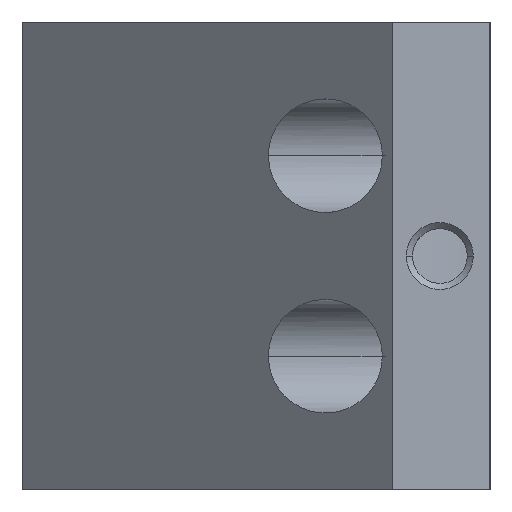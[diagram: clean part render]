
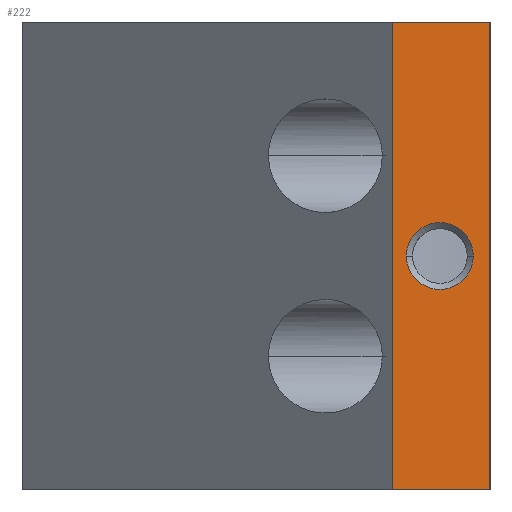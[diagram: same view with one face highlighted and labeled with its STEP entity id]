
A CAD part, left-side view. The second image highlights one B-rep face of the part: STEP entity #222.
In plain terms, the highlighted planar face has unit normal (-1, 0, 0).
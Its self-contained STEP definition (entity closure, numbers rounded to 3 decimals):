
#222=ADVANCED_FACE('',(#412,#317),#1001,.T.);
#317=FACE_OUTER_BOUND('',#444,.F.);
#412=FACE_BOUND('',#443,.F.);
#443=EDGE_LOOP('',(#569,#570));
#444=EDGE_LOOP('',(#571,#572,#573,#574));
#569=ORIENTED_EDGE('',*,*,#1878,.T.);
#570=ORIENTED_EDGE('',*,*,#1879,.T.);
#571=ORIENTED_EDGE('',*,*,#1883,.T.);
#572=ORIENTED_EDGE('',*,*,#1881,.F.);
#573=ORIENTED_EDGE('',*,*,#1882,.F.);
#574=ORIENTED_EDGE('',*,*,#1880,.T.);
#1001=PLANE('',#2350);
#1630=LINE('',#3224,#1728);
#1631=LINE('',#3225,#1729);
#1632=LINE('',#3226,#1730);
#1633=LINE('',#3227,#1731);
#1728=VECTOR('',#2501,42.);
#1729=VECTOR('',#2502,42.);
#1730=VECTOR('',#2503,8.776);
#1731=VECTOR('',#2504,8.776);
#1878=EDGE_CURVE('',#2233,#2232,#2084,.T.);
#1879=EDGE_CURVE('',#2232,#2233,#2085,.T.);
#1880=EDGE_CURVE('',#2231,#2230,#1630,.T.);
#1881=EDGE_CURVE('',#2229,#2228,#1631,.T.);
#1882=EDGE_CURVE('',#2231,#2229,#1632,.T.);
#1883=EDGE_CURVE('',#2230,#2228,#1633,.T.);
#2084=CIRCLE('',#2302,3.);
#2085=CIRCLE('',#2303,3.);
#2228=VERTEX_POINT('',#3018);
#2229=VERTEX_POINT('',#3019);
#2230=VERTEX_POINT('',#3020);
#2231=VERTEX_POINT('',#3021);
#2232=VERTEX_POINT('',#3022);
#2233=VERTEX_POINT('',#3023);
#2302=AXIS2_PLACEMENT_3D('',#3222,#2497,#2498);
#2303=AXIS2_PLACEMENT_3D('',#3223,#2499,#2500);
#2350=AXIS2_PLACEMENT_3D('',#3570,#2661,#2662);
#2497=DIRECTION('',(-1.,0.,0.));
#2498=DIRECTION('',(0.,-1.,0.));
#2499=DIRECTION('',(-1.,0.,0.));
#2500=DIRECTION('',(0.,1.,0.));
#2501=DIRECTION('',(0.,0.,1.));
#2502=DIRECTION('',(0.,0.,1.));
#2503=DIRECTION('',(0.,-1.,0.));
#2504=DIRECTION('',(0.,-1.,0.));
#2661=DIRECTION('',(-1.,0.,0.));
#2662=DIRECTION('',(0.,-1.,0.));
#3018=CARTESIAN_POINT('',(236.375,419.752,-82.836));
#3019=CARTESIAN_POINT('',(236.375,419.752,-124.836));
#3020=CARTESIAN_POINT('',(236.375,428.528,-82.836));
#3021=CARTESIAN_POINT('',(236.375,428.528,-124.836));
#3022=CARTESIAN_POINT('',(236.375,427.252,-103.836));
#3023=CARTESIAN_POINT('',(236.375,421.252,-103.836));
#3222=CARTESIAN_POINT('',(236.375,424.252,-103.836));
#3223=CARTESIAN_POINT('',(236.375,424.252,-103.836));
#3224=CARTESIAN_POINT('',(236.375,428.528,-124.836));
#3225=CARTESIAN_POINT('',(236.375,419.752,-124.836));
#3226=CARTESIAN_POINT('',(236.375,428.528,-124.836));
#3227=CARTESIAN_POINT('',(236.375,428.528,-82.836));
#3570=CARTESIAN_POINT('',(236.375,428.948,-125.256));
